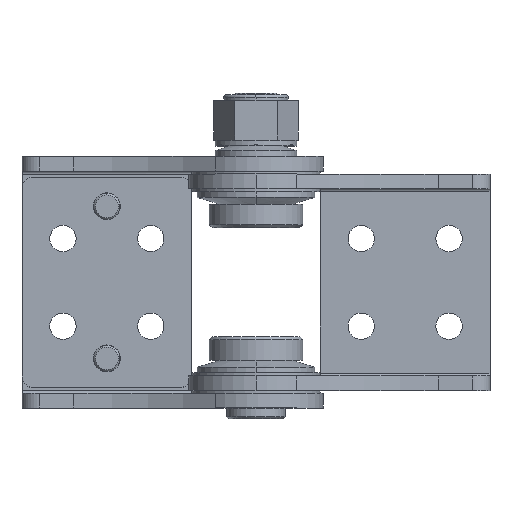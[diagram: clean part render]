
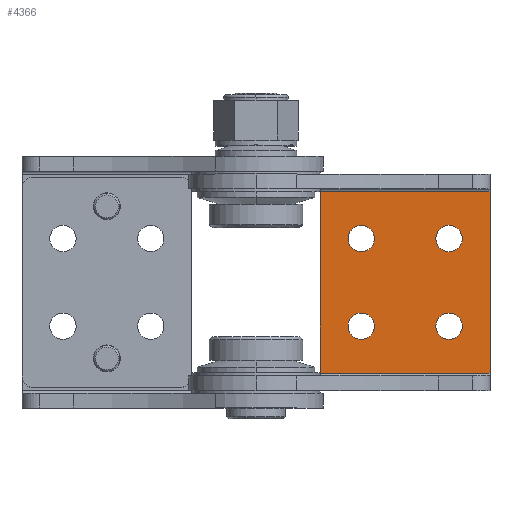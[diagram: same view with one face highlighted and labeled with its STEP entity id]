
A CAD part, top view. The second image highlights one B-rep face of the part: STEP entity #4366.
In plain terms, the highlighted planar face has unit normal (0, 0, 1).
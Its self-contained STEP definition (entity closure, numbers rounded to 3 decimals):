
#235 = AXIS2_PLACEMENT_3D ( 'NONE', #4566, #6703, #2471 ) ;
#259 = ORIENTED_EDGE ( 'NONE', *, *, #3650, .F. ) ;
#391 = CIRCLE ( 'NONE', #235, 2.25 ) ;
#494 = DIRECTION ( 'NONE',  ( 1., 0., 0. ) ) ;
#586 = DIRECTION ( 'NONE',  ( -1., 0., 0. ) ) ;
#618 = CIRCLE ( 'NONE', #5519, 2.25 ) ;
#723 = CARTESIAN_POINT ( 'NONE',  ( 11., -15.5, -9.5 ) ) ;
#745 = EDGE_CURVE ( 'NONE', #1177, #8824, #7789, .T. ) ;
#1066 = CARTESIAN_POINT ( 'NONE',  ( 33., -7.5, -9.5 ) ) ;
#1177 = VERTEX_POINT ( 'NONE', #8403 ) ;
#1197 = ORIENTED_EDGE ( 'NONE', *, *, #6442, .T. ) ;
#1284 = DIRECTION ( 'NONE',  ( 0., 1., 0. ) ) ;
#1534 = CARTESIAN_POINT ( 'NONE',  ( 11., -15.5, -9.5 ) ) ;
#1622 = DIRECTION ( 'NONE',  ( 0., 0., -1. ) ) ;
#1708 = DIRECTION ( 'NONE',  ( 0., 0., -1. ) ) ;
#1855 = CARTESIAN_POINT ( 'NONE',  ( 30.75, 7.5, -9.5 ) ) ;
#1879 = DIRECTION ( 'NONE',  ( 0., 0., 1. ) ) ;
#1885 = ORIENTED_EDGE ( 'NONE', *, *, #4103, .T. ) ;
#1961 = EDGE_LOOP ( 'NONE', ( #1885, #4351 ) ) ;
#1978 = ORIENTED_EDGE ( 'NONE', *, *, #2887, .T. ) ;
#1998 = CARTESIAN_POINT ( 'NONE',  ( 11., 15.5, -9.5 ) ) ;
#2023 = LINE ( 'NONE', #3424, #2753 ) ;
#2127 = CARTESIAN_POINT ( 'NONE',  ( 20.25, -7.5, -9.5 ) ) ;
#2417 = CIRCLE ( 'NONE', #8528, 2.25 ) ;
#2463 = VERTEX_POINT ( 'NONE', #7228 ) ;
#2471 = DIRECTION ( 'NONE',  ( 1., 0., 0. ) ) ;
#2501 = VERTEX_POINT ( 'NONE', #1534 ) ;
#2563 = DIRECTION ( 'NONE',  ( 0., 0., -1. ) ) ;
#2588 = FACE_OUTER_BOUND ( 'NONE', #6969, .T. ) ;
#2597 = AXIS2_PLACEMENT_3D ( 'NONE', #8286, #1879, #4727 ) ;
#2618 = ORIENTED_EDGE ( 'NONE', *, *, #745, .T. ) ;
#2638 = CARTESIAN_POINT ( 'NONE',  ( 15.75, -7.5, -9.5 ) ) ;
#2723 = DIRECTION ( 'NONE',  ( 0., 0., -1. ) ) ;
#2731 = CIRCLE ( 'NONE', #7947, 2.25 ) ;
#2753 = VECTOR ( 'NONE', #7063, 1000. ) ;
#2855 = LINE ( 'NONE', #723, #3790 ) ;
#2887 = EDGE_CURVE ( 'NONE', #4145, #7459, #7383, .T. ) ;
#3283 = VECTOR ( 'NONE', #3399, 1000. ) ;
#3316 = CARTESIAN_POINT ( 'NONE',  ( 15.75, 7.5, -9.5 ) ) ;
#3399 = DIRECTION ( 'NONE',  ( 0., 1., 0. ) ) ;
#3418 = FACE_BOUND ( 'NONE', #3952, .T. ) ;
#3424 = CARTESIAN_POINT ( 'NONE',  ( 40., -15.5, -9.5 ) ) ;
#3607 = AXIS2_PLACEMENT_3D ( 'NONE', #6648, #1708, #5199 ) ;
#3637 = EDGE_CURVE ( 'NONE', #2501, #9002, #2855, .T. ) ;
#3650 = EDGE_CURVE ( 'NONE', #2463, #2501, #2023, .T. ) ;
#3790 = VECTOR ( 'NONE', #1284, 1000. ) ;
#3913 = DIRECTION ( 'NONE',  ( 0., 0., -1. ) ) ;
#3952 = EDGE_LOOP ( 'NONE', ( #1197, #8429 ) ) ;
#4026 = CARTESIAN_POINT ( 'NONE',  ( 33., -7.5, -9.5 ) ) ;
#4103 = EDGE_CURVE ( 'NONE', #4271, #5699, #391, .T. ) ;
#4145 = VERTEX_POINT ( 'NONE', #1855 ) ;
#4266 = EDGE_CURVE ( 'NONE', #5045, #6801, #6914, .T. ) ;
#4271 = VERTEX_POINT ( 'NONE', #2127 ) ;
#4351 = ORIENTED_EDGE ( 'NONE', *, *, #7820, .T. ) ;
#4366 = ADVANCED_FACE ( 'NONE', ( #6253, #9101, #8971, #3418, #2588 ), #5426, .T. ) ;
#4467 = DIRECTION ( 'NONE',  ( -1., 0., 0. ) ) ;
#4566 = CARTESIAN_POINT ( 'NONE',  ( 18., -7.5, -9.5 ) ) ;
#4727 = DIRECTION ( 'NONE',  ( 1., 0., 0. ) ) ;
#4963 = EDGE_CURVE ( 'NONE', #9002, #5147, #5493, .T. ) ;
#5045 = VERTEX_POINT ( 'NONE', #3316 ) ;
#5079 = VECTOR ( 'NONE', #8350, 1000. ) ;
#5147 = VERTEX_POINT ( 'NONE', #8157 ) ;
#5199 = DIRECTION ( 'NONE',  ( 1., 0., 0. ) ) ;
#5338 = CARTESIAN_POINT ( 'NONE',  ( 11., 15.5, -9.5 ) ) ;
#5387 = EDGE_CURVE ( 'NONE', #8824, #1177, #2417, .T. ) ;
#5426 = PLANE ( 'NONE',  #2597 ) ;
#5490 = DIRECTION ( 'NONE',  ( -1., 0., 0. ) ) ;
#5493 = LINE ( 'NONE', #1998, #5079 ) ;
#5519 = AXIS2_PLACEMENT_3D ( 'NONE', #8020, #1622, #4467 ) ;
#5536 = LINE ( 'NONE', #7567, #3283 ) ;
#5699 = VERTEX_POINT ( 'NONE', #2638 ) ;
#5762 = CARTESIAN_POINT ( 'NONE',  ( 35.25, 7.5, -9.5 ) ) ;
#5902 = CARTESIAN_POINT ( 'NONE',  ( 20.25, 7.5, -9.5 ) ) ;
#6044 = CARTESIAN_POINT ( 'NONE',  ( 18., 7.5, -9.5 ) ) ;
#6097 = EDGE_LOOP ( 'NONE', ( #2618, #6812 ) ) ;
#6253 = FACE_BOUND ( 'NONE', #1961, .T. ) ;
#6442 = EDGE_CURVE ( 'NONE', #6801, #5045, #2731, .T. ) ;
#6454 = AXIS2_PLACEMENT_3D ( 'NONE', #8941, #2563, #5490 ) ;
#6458 = EDGE_LOOP ( 'NONE', ( #8454, #1978 ) ) ;
#6648 = CARTESIAN_POINT ( 'NONE',  ( 33., 7.5, -9.5 ) ) ;
#6703 = DIRECTION ( 'NONE',  ( 0., 0., -1. ) ) ;
#6801 = VERTEX_POINT ( 'NONE', #5902 ) ;
#6812 = ORIENTED_EDGE ( 'NONE', *, *, #5387, .T. ) ;
#6866 = DIRECTION ( 'NONE',  ( 0., 0., -1. ) ) ;
#6897 = ORIENTED_EDGE ( 'NONE', *, *, #7332, .T. ) ;
#6914 = CIRCLE ( 'NONE', #6454, 2.25 ) ;
#6969 = EDGE_LOOP ( 'NONE', ( #259, #6897, #8480, #7393 ) ) ;
#7063 = DIRECTION ( 'NONE',  ( -1., 0., 0. ) ) ;
#7228 = CARTESIAN_POINT ( 'NONE',  ( 40., -15.5, -9.5 ) ) ;
#7332 = EDGE_CURVE ( 'NONE', #2463, #5147, #5536, .T. ) ;
#7383 = CIRCLE ( 'NONE', #8566, 2.25 ) ;
#7393 = ORIENTED_EDGE ( 'NONE', *, *, #3637, .F. ) ;
#7459 = VERTEX_POINT ( 'NONE', #5762 ) ;
#7567 = CARTESIAN_POINT ( 'NONE',  ( 40., -15.5, -9.5 ) ) ;
#7619 = CIRCLE ( 'NONE', #3607, 2.25 ) ;
#7789 = CIRCLE ( 'NONE', #8980, 2.25 ) ;
#7820 = EDGE_CURVE ( 'NONE', #5699, #4271, #618, .T. ) ;
#7825 = CARTESIAN_POINT ( 'NONE',  ( 30.75, -7.5, -9.5 ) ) ;
#7947 = AXIS2_PLACEMENT_3D ( 'NONE', #6044, #8887, #8015 ) ;
#8015 = DIRECTION ( 'NONE',  ( 1., 0., 0. ) ) ;
#8020 = CARTESIAN_POINT ( 'NONE',  ( 18., -7.5, -9.5 ) ) ;
#8157 = CARTESIAN_POINT ( 'NONE',  ( 40., 15.5, -9.5 ) ) ;
#8253 = DIRECTION ( 'NONE',  ( -1., 0., 0. ) ) ;
#8286 = CARTESIAN_POINT ( 'NONE',  ( 11., 18.5, -9.5 ) ) ;
#8350 = DIRECTION ( 'NONE',  ( 1., 0., 0. ) ) ;
#8403 = CARTESIAN_POINT ( 'NONE',  ( 35.25, -7.5, -9.5 ) ) ;
#8429 = ORIENTED_EDGE ( 'NONE', *, *, #4266, .T. ) ;
#8454 = ORIENTED_EDGE ( 'NONE', *, *, #8923, .T. ) ;
#8480 = ORIENTED_EDGE ( 'NONE', *, *, #4963, .F. ) ;
#8528 = AXIS2_PLACEMENT_3D ( 'NONE', #1066, #3913, #8253 ) ;
#8566 = AXIS2_PLACEMENT_3D ( 'NONE', #8873, #2723, #586 ) ;
#8824 = VERTEX_POINT ( 'NONE', #7825 ) ;
#8873 = CARTESIAN_POINT ( 'NONE',  ( 33., 7.5, -9.5 ) ) ;
#8887 = DIRECTION ( 'NONE',  ( 0., 0., -1. ) ) ;
#8923 = EDGE_CURVE ( 'NONE', #7459, #4145, #7619, .T. ) ;
#8941 = CARTESIAN_POINT ( 'NONE',  ( 18., 7.5, -9.5 ) ) ;
#8971 = FACE_BOUND ( 'NONE', #6458, .T. ) ;
#8980 = AXIS2_PLACEMENT_3D ( 'NONE', #4026, #6866, #494 ) ;
#9002 = VERTEX_POINT ( 'NONE', #5338 ) ;
#9101 = FACE_BOUND ( 'NONE', #6097, .T. ) ;
